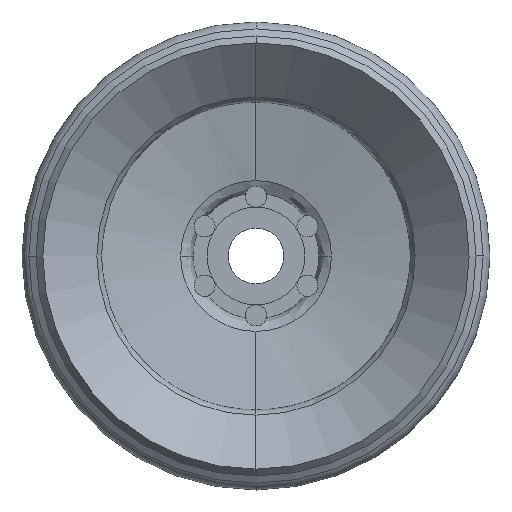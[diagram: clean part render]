
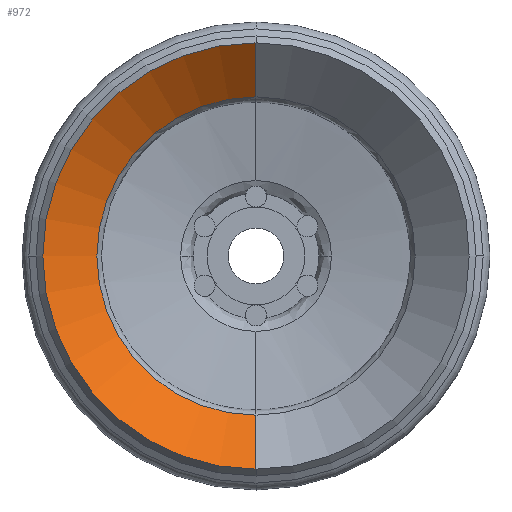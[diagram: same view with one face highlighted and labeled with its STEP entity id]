
A CAD part, front view. The second image highlights one B-rep face of the part: STEP entity #972.
In plain terms, the highlighted conical face has half-angle 49.128 degrees and reference radius 22.778 mm.
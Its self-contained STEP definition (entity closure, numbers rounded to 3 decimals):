
#11 = DIRECTION ( 'NONE',  ( 0., 0., -1. ) ) ;
#37 = VERTEX_POINT ( 'NONE', #1986 ) ;
#42 = VERTEX_POINT ( 'NONE', #1175 ) ;
#214 = ORIENTED_EDGE ( 'NONE', *, *, #1680, .T. ) ;
#244 = DIRECTION ( 'NONE',  ( 0., -1., 0. ) ) ;
#279 = AXIS2_PLACEMENT_3D ( 'NONE', #662, #244, #720 ) ;
#297 = EDGE_LOOP ( 'NONE', ( #1837, #1960, #214, #614 ) ) ;
#498 = CIRCLE ( 'NONE', #937, 22.778 ) ;
#567 = CARTESIAN_POINT ( 'NONE',  ( 0., -34., -30.518 ) ) ;
#614 = ORIENTED_EDGE ( 'NONE', *, *, #1261, .F. ) ;
#662 = CARTESIAN_POINT ( 'NONE',  ( 0., -27.301, 0. ) ) ;
#705 = FACE_OUTER_BOUND ( 'NONE', #297, .T. ) ;
#720 = DIRECTION ( 'NONE',  ( 0., 0., -1. ) ) ;
#778 = CARTESIAN_POINT ( 'NONE',  ( 0., -27.301, -22.778 ) ) ;
#841 = VECTOR ( 'NONE', #862, 1000. ) ;
#851 = CARTESIAN_POINT ( 'NONE',  ( 0., -27.301, 22.778 ) ) ;
#857 = DIRECTION ( 'NONE',  ( 0., -0.654, -0.756 ) ) ;
#862 = DIRECTION ( 'NONE',  ( 0., -0.654, 0.756 ) ) ;
#937 = AXIS2_PLACEMENT_3D ( 'NONE', #1856, #1867, #1851 ) ;
#962 = CARTESIAN_POINT ( 'NONE',  ( 0., -34., 30.518 ) ) ;
#972 = ADVANCED_FACE ( 'NONE', ( #705 ), #1765, .F. ) ;
#990 = LINE ( 'NONE', #778, #1497 ) ;
#1064 = AXIS2_PLACEMENT_3D ( 'NONE', #1892, #1638, #11 ) ;
#1083 = EDGE_CURVE ( 'NONE', #42, #37, #498, .T. ) ;
#1175 = CARTESIAN_POINT ( 'NONE',  ( 0., -27.301, 22.778 ) ) ;
#1261 = EDGE_CURVE ( 'NONE', #37, #1368, #990, .T. ) ;
#1286 = EDGE_CURVE ( 'NONE', #42, #1392, #1989, .T. ) ;
#1368 = VERTEX_POINT ( 'NONE', #567 ) ;
#1392 = VERTEX_POINT ( 'NONE', #962 ) ;
#1497 = VECTOR ( 'NONE', #857, 1000. ) ;
#1638 = DIRECTION ( 'NONE',  ( 0., -1., 0. ) ) ;
#1680 = EDGE_CURVE ( 'NONE', #1392, #1368, #1974, .T. ) ;
#1765 = CONICAL_SURFACE ( 'NONE', #279, 22.778, 0.857 ) ;
#1837 = ORIENTED_EDGE ( 'NONE', *, *, #1083, .F. ) ;
#1851 = DIRECTION ( 'NONE',  ( 1., 0., 0. ) ) ;
#1856 = CARTESIAN_POINT ( 'NONE',  ( 0., -27.301, 0. ) ) ;
#1867 = DIRECTION ( 'NONE',  ( 0., -1., 0. ) ) ;
#1892 = CARTESIAN_POINT ( 'NONE',  ( 0., -34., 0. ) ) ;
#1960 = ORIENTED_EDGE ( 'NONE', *, *, #1286, .T. ) ;
#1974 = CIRCLE ( 'NONE', #1064, 30.518 ) ;
#1986 = CARTESIAN_POINT ( 'NONE',  ( 0., -27.301, -22.778 ) ) ;
#1989 = LINE ( 'NONE', #851, #841 ) ;
